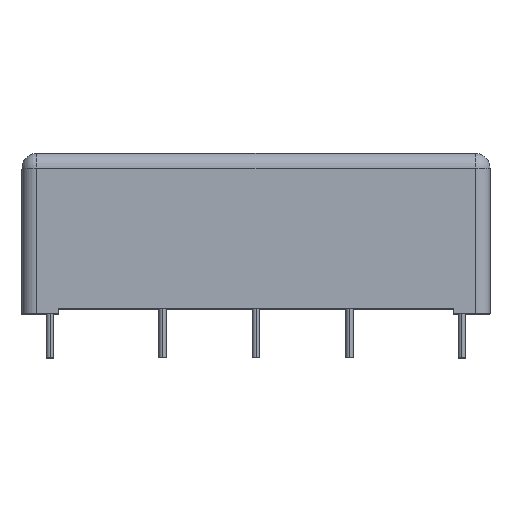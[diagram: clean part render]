
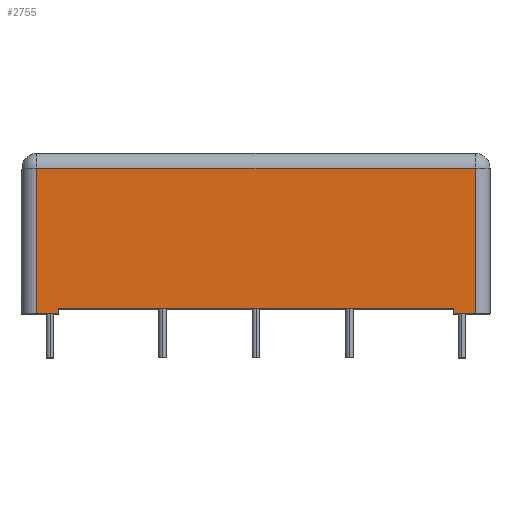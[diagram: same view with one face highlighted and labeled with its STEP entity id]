
A CAD part, top view. The second image highlights one B-rep face of the part: STEP entity #2755.
In plain terms, the highlighted planar face has unit normal (0, 0, 1).
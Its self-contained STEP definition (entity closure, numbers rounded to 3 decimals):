
#200 = DIRECTION ( 'NONE',  ( 0., 1., 0. ) ) ;
#388 = FACE_OUTER_BOUND ( 'NONE', #2667, .T. ) ;
#418 = DIRECTION ( 'NONE',  ( 0., 0., -1. ) ) ;
#522 = VERTEX_POINT ( 'NONE', #2068 ) ;
#627 = LINE ( 'NONE', #1118, #2937 ) ;
#795 = CARTESIAN_POINT ( 'NONE',  ( -31.75, 21., 44.45 ) ) ;
#817 = EDGE_CURVE ( 'NONE', #5444, #2141, #2423, .T. ) ;
#926 = VERTEX_POINT ( 'NONE', #2517 ) ;
#1031 = ORIENTED_EDGE ( 'NONE', *, *, #4187, .T. ) ;
#1074 = VECTOR ( 'NONE', #2007, 1000. ) ;
#1118 = CARTESIAN_POINT ( 'NONE',  ( -26.75, -0.7, 44.45 ) ) ;
#1166 = ORIENTED_EDGE ( 'NONE', *, *, #1991, .T. ) ;
#1743 = VECTOR ( 'NONE', #2795, 1000. ) ;
#1822 = CARTESIAN_POINT ( 'NONE',  ( 29.75, 19., 44.45 ) ) ;
#1944 = CARTESIAN_POINT ( 'NONE',  ( -29.75, 19., 44.45 ) ) ;
#1991 = EDGE_CURVE ( 'NONE', #2955, #5932, #3063, .T. ) ;
#2007 = DIRECTION ( 'NONE',  ( -1., 0., 0. ) ) ;
#2028 = VECTOR ( 'NONE', #200, 1000. ) ;
#2068 = CARTESIAN_POINT ( 'NONE',  ( -29.75, -0.7, 44.45 ) ) ;
#2141 = VERTEX_POINT ( 'NONE', #3618 ) ;
#2176 = CARTESIAN_POINT ( 'NONE',  ( 29.75, 21., 44.45 ) ) ;
#2230 = VECTOR ( 'NONE', #4416, 1000. ) ;
#2263 = PLANE ( 'NONE',  #5832 ) ;
#2309 = EDGE_CURVE ( 'NONE', #2955, #5444, #6041, .T. ) ;
#2377 = LINE ( 'NONE', #5151, #5757 ) ;
#2423 = LINE ( 'NONE', #5596, #1743 ) ;
#2504 = DIRECTION ( 'NONE',  ( -1., 0., 0. ) ) ;
#2517 = CARTESIAN_POINT ( 'NONE',  ( -29.75, 19., 44.45 ) ) ;
#2571 = VECTOR ( 'NONE', #3738, 1000. ) ;
#2636 = DIRECTION ( 'NONE',  ( 0., 1., 0. ) ) ;
#2648 = ORIENTED_EDGE ( 'NONE', *, *, #817, .F. ) ;
#2667 = EDGE_LOOP ( 'NONE', ( #1166, #4268, #5760, #2954, #2952, #1031, #2648, #5363 ) ) ;
#2755 = ADVANCED_FACE ( 'NONE', ( #388 ), #2263, .F. ) ;
#2795 = DIRECTION ( 'NONE',  ( 0., 1., 0. ) ) ;
#2937 = VECTOR ( 'NONE', #2504, 1000. ) ;
#2952 = ORIENTED_EDGE ( 'NONE', *, *, #5050, .T. ) ;
#2954 = ORIENTED_EDGE ( 'NONE', *, *, #5842, .F. ) ;
#2955 = VERTEX_POINT ( 'NONE', #3791 ) ;
#3061 = CARTESIAN_POINT ( 'NONE',  ( -29.75, 21., 44.45 ) ) ;
#3063 = LINE ( 'NONE', #2176, #4208 ) ;
#3091 = LINE ( 'NONE', #3061, #2230 ) ;
#3126 = CARTESIAN_POINT ( 'NONE',  ( -26.75, -0.7, 44.45 ) ) ;
#3215 = CARTESIAN_POINT ( 'NONE',  ( 29.75, -0.7, 44.45 ) ) ;
#3618 = CARTESIAN_POINT ( 'NONE',  ( 26.75, 0., 44.45 ) ) ;
#3737 = DIRECTION ( 'NONE',  ( -1., 0., 0. ) ) ;
#3738 = DIRECTION ( 'NONE',  ( -1., 0., 0. ) ) ;
#3762 = CARTESIAN_POINT ( 'NONE',  ( -26.75, 0., 44.45 ) ) ;
#3791 = CARTESIAN_POINT ( 'NONE',  ( 29.75, -0.7, 44.45 ) ) ;
#4104 = CARTESIAN_POINT ( 'NONE',  ( 26.75, -0.7, 44.45 ) ) ;
#4187 = EDGE_CURVE ( 'NONE', #5622, #2141, #2377, .T. ) ;
#4208 = VECTOR ( 'NONE', #2636, 1000. ) ;
#4222 = LINE ( 'NONE', #1944, #1074 ) ;
#4268 = ORIENTED_EDGE ( 'NONE', *, *, #5683, .T. ) ;
#4416 = DIRECTION ( 'NONE',  ( 0., -1., 0. ) ) ;
#4441 = CARTESIAN_POINT ( 'NONE',  ( -26.75, -0.7, 44.45 ) ) ;
#4698 = DIRECTION ( 'NONE',  ( 1., 0., 0. ) ) ;
#4837 = VERTEX_POINT ( 'NONE', #4441 ) ;
#5038 = EDGE_CURVE ( 'NONE', #926, #522, #3091, .T. ) ;
#5050 = EDGE_CURVE ( 'NONE', #4837, #5622, #5888, .T. ) ;
#5151 = CARTESIAN_POINT ( 'NONE',  ( -31.75, 0., 44.45 ) ) ;
#5363 = ORIENTED_EDGE ( 'NONE', *, *, #2309, .F. ) ;
#5444 = VERTEX_POINT ( 'NONE', #4104 ) ;
#5596 = CARTESIAN_POINT ( 'NONE',  ( 26.75, -0.7, 44.45 ) ) ;
#5622 = VERTEX_POINT ( 'NONE', #3762 ) ;
#5683 = EDGE_CURVE ( 'NONE', #5932, #926, #4222, .T. ) ;
#5757 = VECTOR ( 'NONE', #4698, 1000. ) ;
#5760 = ORIENTED_EDGE ( 'NONE', *, *, #5038, .T. ) ;
#5832 = AXIS2_PLACEMENT_3D ( 'NONE', #795, #418, #3737 ) ;
#5842 = EDGE_CURVE ( 'NONE', #4837, #522, #627, .T. ) ;
#5888 = LINE ( 'NONE', #3126, #2028 ) ;
#5932 = VERTEX_POINT ( 'NONE', #1822 ) ;
#6041 = LINE ( 'NONE', #3215, #2571 ) ;
